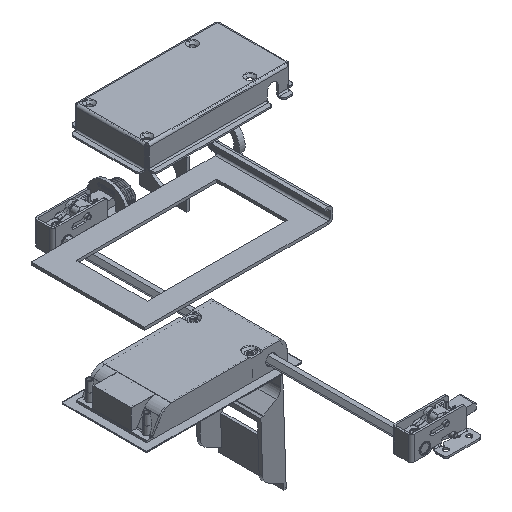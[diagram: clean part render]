
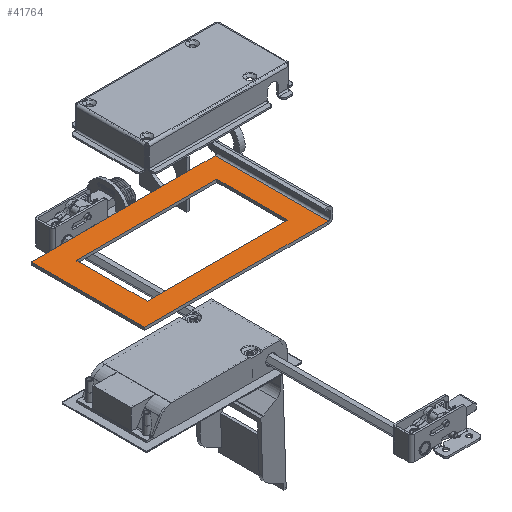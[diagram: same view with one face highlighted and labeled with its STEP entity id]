
A CAD part, isometric view. The second image highlights one B-rep face of the part: STEP entity #41764.
In plain terms, the highlighted planar face has unit normal (0, 0, 1).
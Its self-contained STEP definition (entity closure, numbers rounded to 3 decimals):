
#1312 = CARTESIAN_POINT ( 'NONE',  ( -74.5, 37.5, 3. ) ) ;
#1682 = CARTESIAN_POINT ( 'NONE',  ( -100., -60., 3. ) ) ;
#2077 = VERTEX_POINT ( 'NONE', #55688 ) ;
#2340 = LINE ( 'NONE', #1682, #25230 ) ;
#3733 = CARTESIAN_POINT ( 'NONE',  ( -74.5, -37.5, 3. ) ) ;
#3919 = CARTESIAN_POINT ( 'NONE',  ( 95., -60., 3. ) ) ;
#5045 = DIRECTION ( 'NONE',  ( 0., -1., 0. ) ) ;
#5283 = EDGE_CURVE ( 'NONE', #58789, #58314, #7448, .T. ) ;
#6277 = DIRECTION ( 'NONE',  ( 1., 0., 0. ) ) ;
#6585 = EDGE_CURVE ( 'NONE', #29240, #43212, #54550, .T. ) ;
#7448 = LINE ( 'NONE', #32414, #56060 ) ;
#8155 = EDGE_LOOP ( 'NONE', ( #39477, #45738, #41935, #36803 ) ) ;
#10730 = CARTESIAN_POINT ( 'NONE',  ( 95., 60., 3. ) ) ;
#15337 = FACE_OUTER_BOUND ( 'NONE', #21664, .T. ) ;
#18428 = EDGE_CURVE ( 'NONE', #43212, #2077, #48211, .T. ) ;
#18972 = CARTESIAN_POINT ( 'NONE',  ( 0., 0., 3. ) ) ;
#19962 = VERTEX_POINT ( 'NONE', #3919 ) ;
#21405 = CARTESIAN_POINT ( 'NONE',  ( -74.5, 37.5, 3. ) ) ;
#21664 = EDGE_LOOP ( 'NONE', ( #44270, #25417, #42332, #26811 ) ) ;
#21951 = VECTOR ( 'NONE', #34877, 1000. ) ;
#22837 = EDGE_CURVE ( 'NONE', #58314, #46470, #58528, .T. ) ;
#22843 = CARTESIAN_POINT ( 'NONE',  ( -100., 60., 3. ) ) ;
#23042 = DIRECTION ( 'NONE',  ( -1., 0., 0. ) ) ;
#23553 = DIRECTION ( 'NONE',  ( 0., 0., 1. ) ) ;
#23940 = VECTOR ( 'NONE', #26604, 1000. ) ;
#25230 = VECTOR ( 'NONE', #6277, 1000. ) ;
#25414 = AXIS2_PLACEMENT_3D ( 'NONE', #18972, #23553, #55473 ) ;
#25417 = ORIENTED_EDGE ( 'NONE', *, *, #57857, .T. ) ;
#25524 = CARTESIAN_POINT ( 'NONE',  ( 74.5, 37.5, 3. ) ) ;
#26604 = DIRECTION ( 'NONE',  ( 0., -1., 0. ) ) ;
#26811 = ORIENTED_EDGE ( 'NONE', *, *, #18428, .T. ) ;
#28941 = VECTOR ( 'NONE', #51859, 1000. ) ;
#29240 = VERTEX_POINT ( 'NONE', #10730 ) ;
#30289 = CARTESIAN_POINT ( 'NONE',  ( 95., 0., 3. ) ) ;
#31055 = CARTESIAN_POINT ( 'NONE',  ( -74.5, -37.5, 3. ) ) ;
#31293 = DIRECTION ( 'NONE',  ( 1., 0., 0. ) ) ;
#32414 = CARTESIAN_POINT ( 'NONE',  ( -74.5, 37.5, 3. ) ) ;
#32863 = EDGE_CURVE ( 'NONE', #46470, #45191, #54591, .T. ) ;
#34237 = VECTOR ( 'NONE', #31293, 1000. ) ;
#34877 = DIRECTION ( 'NONE',  ( 0., 1., 0. ) ) ;
#36803 = ORIENTED_EDGE ( 'NONE', *, *, #5283, .F. ) ;
#37409 = CARTESIAN_POINT ( 'NONE',  ( 74.5, 37.5, 3. ) ) ;
#38186 = FACE_BOUND ( 'NONE', #8155, .T. ) ;
#39477 = ORIENTED_EDGE ( 'NONE', *, *, #51911, .F. ) ;
#41112 = LINE ( 'NONE', #1312, #28941 ) ;
#41764 = ADVANCED_FACE ( 'NONE', ( #15337, #38186 ), #55284, .T. ) ;
#41935 = ORIENTED_EDGE ( 'NONE', *, *, #22837, .F. ) ;
#42332 = ORIENTED_EDGE ( 'NONE', *, *, #6585, .T. ) ;
#42395 = VECTOR ( 'NONE', #23042, 1000. ) ;
#42426 = VECTOR ( 'NONE', #55598, 1000. ) ;
#43212 = VERTEX_POINT ( 'NONE', #49435 ) ;
#44270 = ORIENTED_EDGE ( 'NONE', *, *, #53597, .T. ) ;
#44948 = CARTESIAN_POINT ( 'NONE',  ( 74.5, -37.5, 3. ) ) ;
#45191 = VERTEX_POINT ( 'NONE', #25524 ) ;
#45738 = ORIENTED_EDGE ( 'NONE', *, *, #32863, .F. ) ;
#46470 = VERTEX_POINT ( 'NONE', #44948 ) ;
#48211 = LINE ( 'NONE', #53952, #23940 ) ;
#49435 = CARTESIAN_POINT ( 'NONE',  ( -100., 60., 3. ) ) ;
#51859 = DIRECTION ( 'NONE',  ( -1., 0., 0. ) ) ;
#51911 = EDGE_CURVE ( 'NONE', #45191, #58789, #41112, .T. ) ;
#53597 = EDGE_CURVE ( 'NONE', #2077, #19962, #2340, .T. ) ;
#53952 = CARTESIAN_POINT ( 'NONE',  ( -100., 60., 3. ) ) ;
#54550 = LINE ( 'NONE', #22843, #42395 ) ;
#54591 = LINE ( 'NONE', #37409, #42426 ) ;
#55284 = PLANE ( 'NONE',  #25414 ) ;
#55473 = DIRECTION ( 'NONE',  ( 1., 0., 0. ) ) ;
#55598 = DIRECTION ( 'NONE',  ( 0., 1., 0. ) ) ;
#55688 = CARTESIAN_POINT ( 'NONE',  ( -100., -60., 3. ) ) ;
#56060 = VECTOR ( 'NONE', #5045, 1000. ) ;
#57857 = EDGE_CURVE ( 'NONE', #19962, #29240, #58373, .T. ) ;
#58314 = VERTEX_POINT ( 'NONE', #31055 ) ;
#58373 = LINE ( 'NONE', #30289, #21951 ) ;
#58528 = LINE ( 'NONE', #3733, #34237 ) ;
#58789 = VERTEX_POINT ( 'NONE', #21405 ) ;
